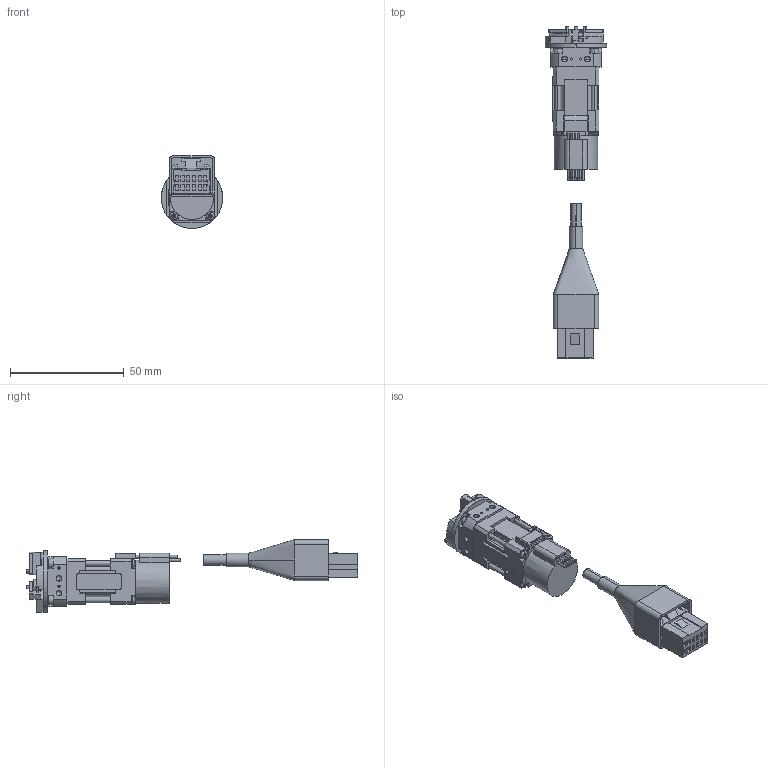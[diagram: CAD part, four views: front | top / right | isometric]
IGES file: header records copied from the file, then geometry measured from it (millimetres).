
Start section: SolidWorks IGES file using analytic representation for surfaces
Global section: file name: G:\SW2007図面\TAIYO\電動機器３Ｄ\電動グリッパ　3爪\ESG1-ST-2004.IGS; native system: SolidWorks 2007; preprocessor: SolidWorks 2007; author: 風音庵,,1; organization: 1; date: 090212.124547; units: millimetre
Bounding box: 27 x 145.79 x 32 mm (x, y, z)
Surface area: 15550.9 mm2 (no closed solid volume)
Topology: 0 solids, 0 shells, 690 faces, 6518 edges, 6506 vertices
Faces by surface type: bspline 492, revolution 198
